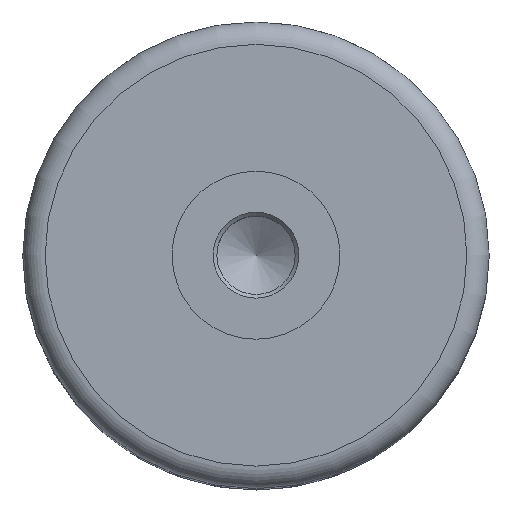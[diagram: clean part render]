
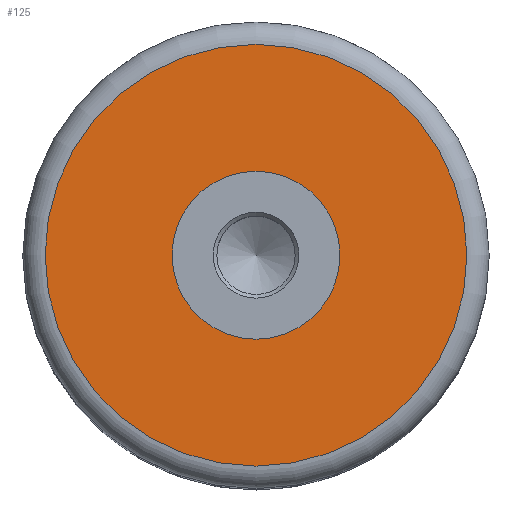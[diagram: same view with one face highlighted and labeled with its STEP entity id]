
A CAD part, top view. The second image highlights one B-rep face of the part: STEP entity #125.
In plain terms, the highlighted planar face has unit normal (0, 0, 1).
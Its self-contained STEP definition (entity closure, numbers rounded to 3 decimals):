
#125=ADVANCED_FACE('',(#219,#220),#221,.T.);
#219=FACE_BOUND('',#304,.T.);
#220=FACE_OUTER_BOUND('',#305,.T.);
#221=PLANE('',#306);
#304=EDGE_LOOP('',(#409));
#305=EDGE_LOOP('',(#410));
#306=AXIS2_PLACEMENT_3D('',#411,#412,#413);
#409=ORIENTED_EDGE('',*,*,#472,.F.);
#410=ORIENTED_EDGE('',*,*,#469,.T.);
#411=CARTESIAN_POINT('',(0.0,0.0,23.75));
#412=DIRECTION('',(0.0,0.0,1.0));
#413=DIRECTION('',(1.0,0.0,0.0));
#469=EDGE_CURVE('',#521,#521,#522,.T.);
#472=EDGE_CURVE('',#526,#526,#527,.T.);
#521=VERTEX_POINT('',#745);
#522=CIRCLE('',#746,11.3);
#526=VERTEX_POINT('',#750);
#527=CIRCLE('',#751,4.5);
#745=CARTESIAN_POINT('',(11.3,0.0,23.75));
#746=AXIS2_PLACEMENT_3D('',#800,#801,#802);
#750=CARTESIAN_POINT('',(4.5,0.0,23.75));
#751=AXIS2_PLACEMENT_3D('',#806,#807,#808);
#800=CARTESIAN_POINT('',(0.0,0.0,23.75));
#801=DIRECTION('',(0.0,0.0,1.0));
#802=DIRECTION('',(1.0,0.0,0.0));
#806=CARTESIAN_POINT('',(0.0,0.0,23.75));
#807=DIRECTION('',(0.0,0.0,1.0));
#808=DIRECTION('',(1.0,0.0,0.0));
